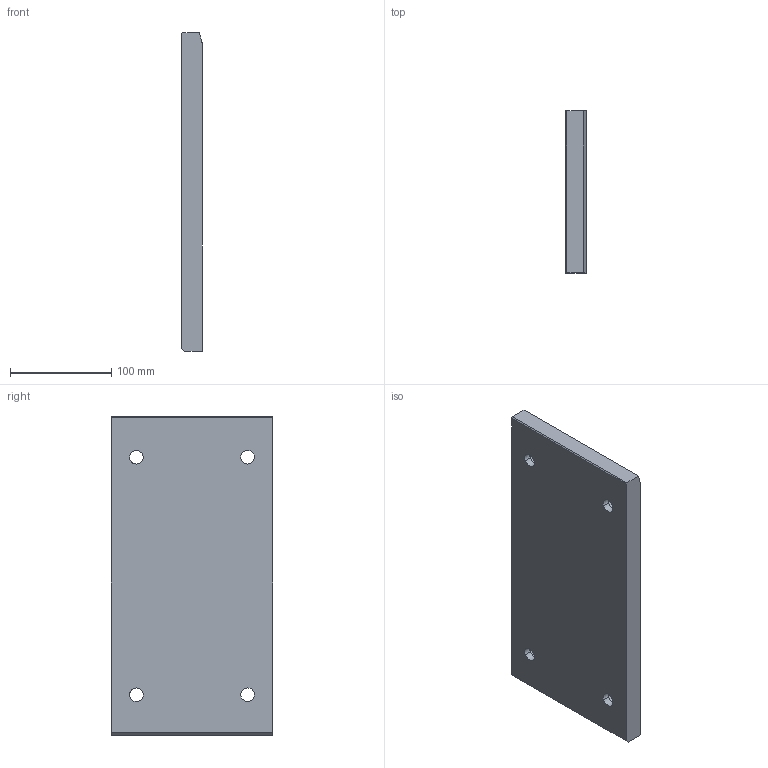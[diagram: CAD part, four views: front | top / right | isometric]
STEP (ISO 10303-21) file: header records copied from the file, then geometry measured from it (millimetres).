
FILE_DESCRIPTION (( 'STEP AP214' ), '1' );
FILE_NAME ('SW225-01-160x315.STEP', '2020-10-21T10:39:48', ( 'August' ), ( '' ), 'SwSTEP 2.0', 'SolidWorks 2018', '' );
FILE_SCHEMA (( 'AUTOMOTIVE_DESIGN' ));
Length unit declared in the file: millimetre
Products named in the file (1): SW225-01-160x315
Bounding box: 20 x 160 x 315 mm (x, y, z)
Volume: 984709.3 mm3; surface area: 122324.4 mm2
Topology: 1 solids, 1 shells, 30 faces, 72 edges, 48 vertices
Faces by surface type: cylinder 17, plane 13
Entity records: 1056 total; most frequent: CARTESIAN_POINT 285, DIRECTION 156, ORIENTED_EDGE 144, EDGE_CURVE 72, AXIS2_PLACEMENT_3D 59, VERTEX_POINT 48, EDGE_LOOP 42, VECTOR 38
